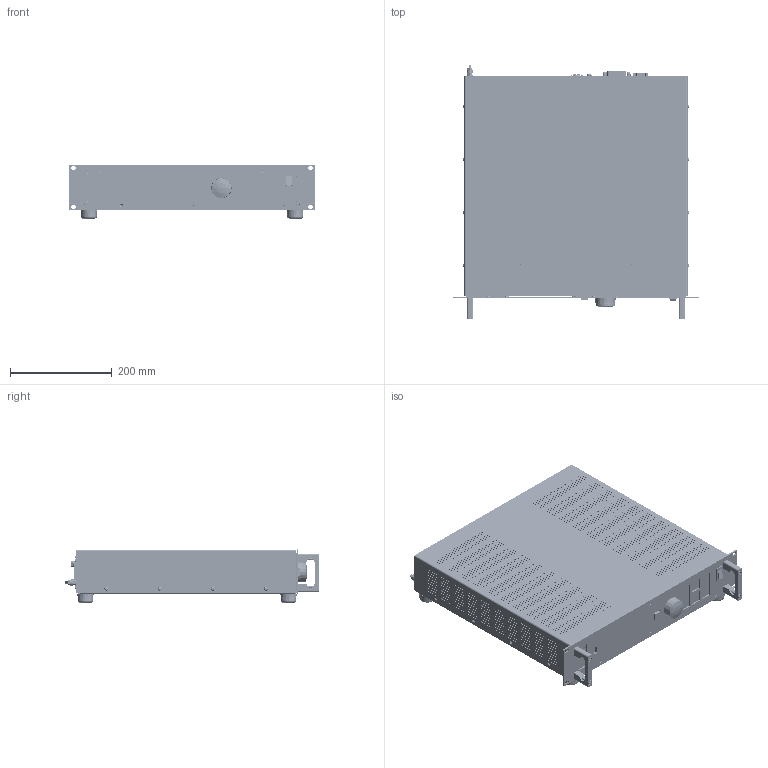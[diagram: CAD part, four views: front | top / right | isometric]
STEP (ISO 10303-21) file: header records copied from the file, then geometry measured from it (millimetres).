
FILE_DESCRIPTION(('STEP AP242'),'1');
FILE_NAME('ACL_M14_19Z_2HE_SBUS4_32_BRA_3D_01.step','2019-10-14T12:06:18',(' '),(' '),'Spatial InterOp 3D',' ',' ');
FILE_SCHEMA(('AP242_MANAGED_MODEL_BASED_3D_ENGINEERING_MIM_LF {1 0 10303 442 1 1 4}'));
Length unit declared in the file: millimetre
Products named in the file (1): 1
Bounding box: 482.6 x 497.15 x 104.55 mm (x, y, z)
Volume: 16287260.2 mm3; surface area: 1734992.3 mm2
Topology: 106 solids, 118 shells, 15521 faces, 38939 edges, 24248 vertices
Faces by surface type: plane 6533, cone 4935, cylinder 3558, bspline 194, torus 155, sphere 146
Entity records: 619687 total; most frequent: CARTESIAN_POINT 114240, DIRECTION 82112, ORIENTED_EDGE 77028, EDGE_CURVE 38514, AXIS2_PLACEMENT_3D 28778, LINE 24556, VECTOR 24556, VERTEX_POINT 23781
